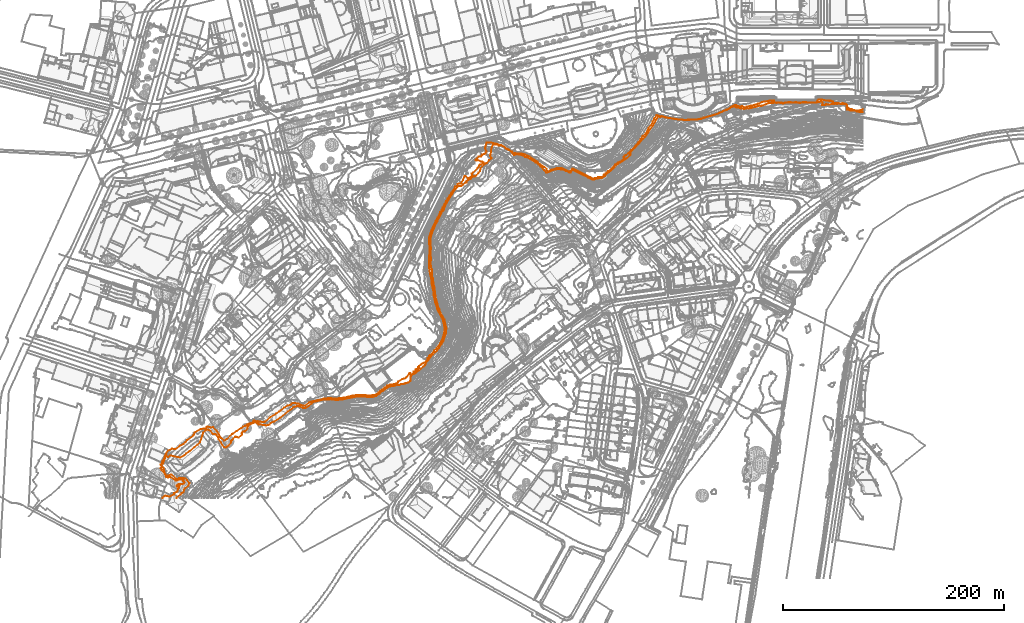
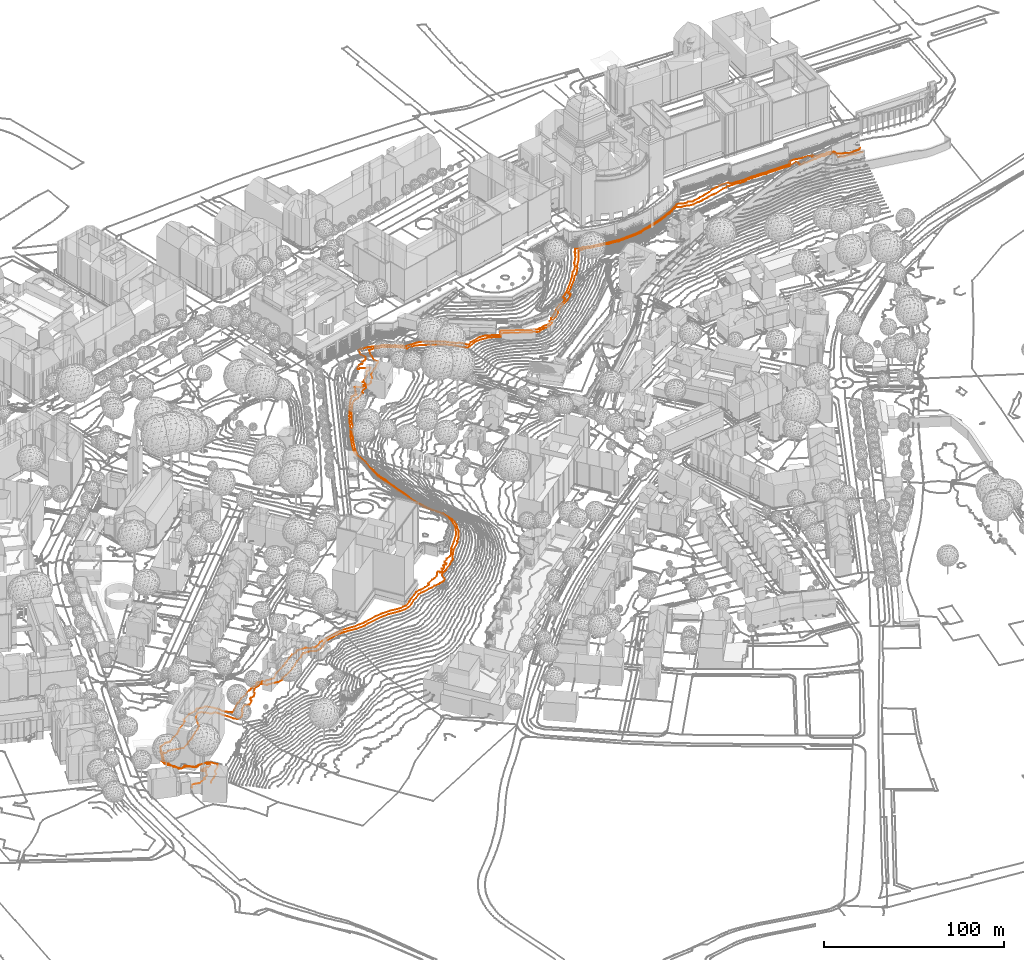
# Not in any storey, part 154 of 477: 2 geographic elements.
"""IFC4 model written with IfcOpenShell, lengths in metres."""

from ifc_helpers import new_model, entity, si_unit, frame, origin_with_axes, place, context, subcontext, project, spatial, element, save


model = new_model("IFC4")

# Units and contexts
model_context = context("Model", 3, precision=1e-05, world=origin_with_axes())
body_context = subcontext(model_context, "Body", "Model", "MODEL_VIEW")
ifc_project = project(units=[si_unit("AREAUNIT", "SQUARE_METRE"), si_unit("LENGTHUNIT", "METRE")], contexts=[model_context])

# Sites
site_1_placement = place(None, origin_with_axes())
site_1 = spatial("IfcSite", under=ifc_project, at=site_1_placement, Name="Topoexport Site")
site_2_placement = place(site_1_placement, origin_with_axes())
site_2 = spatial("IfcSite", under=site_1, at=site_2_placement, Name="TPX_CONTOUR_LINES")

# Geographic elements
geographic_element_1_placement = place(site_2_placement, frame((53.9243443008, 29.1707160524, 528.0), z_axis=(0.0, 0.0, 1.0), x_axis=(1.0, 0.0, 0.0)))
element("IfcGeographicElement", 1, at=geographic_element_1_placement, inside=site_2, Name="Contour Line 528.0 m", PredefinedType="NOTDEFINED", context=body_context, shape_type="GeometricCurveSet", body=[
    entity("IfcGeometricCurveSet", [entity("IfcIndexedPolyCurve", entity("IfcCartesianPointList3D", [[634.2533877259, 318.3275813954, 0.0], [632.7533877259, 318.6875302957, 0.0], [628.7533877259, 318.7833704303, 0.0], [626.7533877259, 319.6780520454, 0.0], [622.7533877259, 319.7864254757, 0.0], [620.7533877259, 320.6822437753, 0.0], [619.7533877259, 320.7493584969, 0.0], [619.5017505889, 321.0, 0.0], [619.3206944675, 325.0, 0.0], [618.7533877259, 325.5575704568, 0.0], [615.7533877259, 325.9832924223, 0.0], [613.7533877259, 325.6624658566, 0.0], [611.7533877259, 326.2392512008, 0.0], [610.7533877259, 325.8120008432, 0.0], [609.7533877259, 326.1629067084, 0.0], [607.7533877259, 325.6360123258, 0.0], [606.7533877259, 325.7663551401, 0.0], [601.7533877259, 325.2248138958, 0.0], [600.7533877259, 325.6001272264, 0.0], [599.7533877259, 324.9460109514, 0.0], [597.1469386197, 325.0, 0.0], [597.5899216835, 327.0, 0.0], [596.7533877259, 328.1684241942, 0.0], [591.7533877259, 327.0823497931, 0.0], [578.7533877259, 327.0987999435, 0.0], [576.7533877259, 326.6823048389, 0.0], [575.7533877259, 327.0641047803, 0.0], [572.7533877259, 327.2063637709, 0.0], [564.7533877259, 327.1543279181, 0.0], [563.7623349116, 327.0, 0.0], [562.7533877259, 326.448357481, 0.0], [561.7533877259, 326.4343716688, 0.0], [559.7533877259, 326.5102784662, 0.0], [557.7533877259, 327.0712284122, 0.0], [555.7533877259, 326.7871612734, 0.0], [553.7533877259, 327.1238699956, 0.0], [552.7533877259, 326.8738637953, 0.0], [551.7533877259, 327.0086323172, 0.0], [550.7533877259, 326.5442009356, 0.0], [548.7533877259, 326.4970273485, 0.0], [542.7533877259, 324.3087642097, 0.0], [541.7533877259, 324.0844859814, 0.0], [540.7533877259, 324.2665307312, 0.0], [537.7533877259, 323.6869343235, 0.0], [536.7533877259, 323.1665404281, 0.0], [533.7533877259, 322.6711744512, 0.0], [532.7533877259, 321.923361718, 0.0], [531.7533877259, 322.1948013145, 0.0], [530.7533877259, 321.79420745, 0.0], [529.7533877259, 322.0634176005, 0.0], [526.7533877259, 321.4310220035, 0.0], [523.7533877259, 321.7720772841, 0.0], [522.7533877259, 322.2461229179, 0.0], [519.7533877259, 322.6639315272, 0.0], [516.7533877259, 323.879054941, 0.0], [515.7533877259, 323.1270044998, 0.0], [514.7533877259, 323.0593332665, 0.0], [512.7533877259, 321.4416476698, 0.0], [511.386918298, 321.0, 0.0], [510.7533877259, 320.4270142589, 0.0], [508.883221, 320.0, 0.0], [507.7533877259, 319.2233969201, 0.0], [504.7533877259, 318.0903262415, 0.0], [503.7533877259, 317.4272977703, 0.0], [497.7533877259, 315.3818701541, 0.0], [489.7533877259, 313.310846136, 0.0], [487.7533877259, 312.3348697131, 0.0], [482.7533877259, 311.6746949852, 0.0], [474.7533877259, 311.4417765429, 0.0], [472.7533877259, 311.0941094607, 0.0], [470.7533877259, 311.5978547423, 0.0], [466.7533877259, 311.7810933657, 0.0], [465.7533877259, 312.1097318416, 0.0], [461.7533877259, 312.4745305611, 0.0], [459.7533877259, 313.0628267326, 0.0], [455.7533877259, 313.4827356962, 0.0], [454.7533877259, 314.111926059, 0.0], [451.7533877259, 314.5648022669, 0.0], [450.7533877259, 314.2096413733, 0.0], [449.7533877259, 314.9244332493, 0.0], [448.7533877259, 314.3285525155, 0.0], [443.855997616, 306.0, 0.0], [440.7533877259, 301.9664132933, 0.0], [439.8296132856, 300.0, 0.0], [436.7533877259, 295.7154784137, 0.0], [434.7533877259, 294.1525553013, 0.0], [432.3134022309, 291.0, 0.0], [427.6356595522, 286.0, 0.0], [423.7533877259, 282.1765133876, 0.0], [423.2716561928, 282.0, 0.0], [423.1146262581, 281.0, 0.0], [423.7533877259, 280.583551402, 0.0], [423.8929870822, 280.0, 0.0], [423.1115282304, 279.0, 0.0], [419.5026294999, 276.0, 0.0], [414.5140592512, 273.0, 0.0], [410.4731029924, 270.0, 0.0], [409.3425580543, 269.0, 0.0], [408.7533877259, 267.9128508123, 0.0], [405.5589854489, 265.0, 0.0], [402.7533877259, 263.348630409, 0.0], [400.7533877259, 260.8067830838, 0.0], [397.7533877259, 258.8620977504, 0.0], [394.7533877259, 258.7775839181, 0.0], [393.7533877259, 258.3257069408, 0.0], [391.7533877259, 258.108586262, 0.0], [390.7533877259, 257.3333858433, 0.0], [389.7533877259, 257.4431185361, 0.0], [385.7533877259, 259.1370725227, 0.0], [371.7533877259, 266.2484783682, 0.0], [370.7533877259, 265.6421927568, 0.0], [369.7533877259, 264.0105540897, 0.0], [368.7533877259, 263.8210065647, 0.0], [365.7533877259, 265.3950797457, 0.0], [362.7533877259, 266.4250397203, 0.0], [358.7533877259, 266.9692121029, 0.0], [355.7533877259, 266.6581347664, 0.0], [353.2885187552, 266.0, 0.0], [349.7533877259, 264.1761099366, 0.0], [347.7533877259, 263.9022290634, 0.0], [345.5719203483, 266.0, 0.0], [344.205848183, 268.0, 0.0], [342.7533877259, 269.486530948, 0.0], [340.6174240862, 271.0, 0.0], [339.7533877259, 272.3363104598, 0.0], [337.898929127, 273.0, 0.0], [330.7533877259, 277.3069653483, 0.0], [328.456895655, 278.0, 0.0], [326.7533877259, 279.0061209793, 0.0], [323.7533877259, 280.1210745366, 0.0], [320.7533877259, 280.397091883, 0.0], [318.7533877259, 279.8544566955, 0.0], [317.434959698, 281.0, 0.0], [316.7533877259, 282.2884915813, 0.0], [315.7533877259, 282.7565951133, 0.0], [313.7533877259, 284.3594781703, 0.0], [311.7533877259, 285.2798538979, 0.0], [310.7533877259, 286.2895634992, 0.0], [306.7533877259, 288.3150787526, 0.0], [304.7533877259, 288.3273888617, 0.0], [302.7533877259, 289.2366140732, 0.0], [299.5328848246, 289.0, 0.0], [298.2635317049, 286.0, 0.0], [297.8079057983, 284.0, 0.0], [297.886878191, 283.0, 0.0], [297.179115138, 279.0, 0.0], [298.2547091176, 277.0, 0.0], [297.7533877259, 276.3339510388, 0.0], [296.1354228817, 275.0, 0.0], [293.7533877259, 272.2430646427, 0.0], [292.7533877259, 271.9050022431, 0.0], [291.6068972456, 271.0, 0.0], [288.5480625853, 268.0, 0.0], [287.7533877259, 265.1689460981, 0.0], [286.5530906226, 264.0, 0.0], [284.3807707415, 261.0, 0.0], [282.7533877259, 260.455618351, 0.0], [281.7533877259, 260.5186170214, 0.0], [280.7533877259, 259.9700108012, 0.0], [279.7533877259, 258.3297430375, 0.0], [276.9379374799, 257.0, 0.0], [275.7877789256, 256.0, 0.0], [275.7533877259, 254.911026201, 0.0], [274.7533877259, 254.8642424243, 0.0], [272.7533877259, 253.0549084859, 0.0], [270.7533877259, 251.7225766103, 0.0], [268.7533877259, 251.6187756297, 0.0], [267.7533877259, 251.0888463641, 0.0], [265.7533877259, 249.0376394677, 0.0], [263.7533877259, 246.3342716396, 0.0], [256.9305248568, 235.0, 0.0], [255.4986707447, 232.0, 0.0], [255.1762960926, 230.0, 0.0], [253.3404372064, 228.0, 0.0], [250.8518933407, 223.0, 0.0], [249.527770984, 221.0, 0.0], [249.3882069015, 220.0, 0.0], [248.2532647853, 218.0, 0.0], [245.2184543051, 211.0, 0.0], [243.4811302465, 206.0, 0.0], [243.194458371, 205.0, 0.0], [243.1004901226, 202.0, 0.0], [243.5107330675, 196.0, 0.0], [243.2194390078, 189.0, 0.0], [243.4798212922, 187.0, 0.0], [243.3639808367, 181.0, 0.0], [243.7936959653, 178.0, 0.0], [244.3921327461, 176.0, 0.0], [244.7420598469, 170.0, 0.0], [245.4528190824, 168.0, 0.0], [245.9261237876, 163.0, 0.0], [246.7503344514, 160.0, 0.0], [247.867568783, 151.0, 0.0], [249.4689931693, 145.0, 0.0], [251.1534069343, 140.0, 0.0], [252.4522298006, 137.0, 0.0], [255.7987414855, 131.0, 0.0], [257.4679031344, 123.0, 0.0], [257.3708548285, 121.0, 0.0], [256.9325380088, 118.0, 0.0], [254.8525220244, 112.0, 0.0], [253.1090215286, 109.0, 0.0], [250.7533877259, 105.3037547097, 0.0], [249.3340994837, 104.0, 0.0], [249.1012427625, 103.0, 0.0], [243.5928120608, 98.0, 0.0], [238.7533877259, 91.0989281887, 0.0], [238.4181237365, 90.0, 0.0], [237.7533877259, 89.2332707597, 0.0], [236.7533877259, 88.7275831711, 0.0], [234.7533877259, 86.7180674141, 0.0], [229.7533877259, 82.7923566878, 0.0], [228.7533877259, 82.1247361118, 0.0], [227.7533877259, 81.9370306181, 0.0], [225.7477743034, 80.0, 0.0], [225.1903643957, 79.0, 0.0], [225.0990191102, 76.0, 0.0], [224.7533877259, 75.3245553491, 0.0], [223.0840279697, 74.0, 0.0], [220.7533877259, 73.5683195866, 0.0], [219.7533877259, 72.9309789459, 0.0], [216.7533877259, 72.7677922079, 0.0], [214.7533877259, 71.8538959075, 0.0], [212.7533877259, 71.815318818, 0.0], [208.7533877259, 70.7341423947, 0.0], [206.7533877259, 70.6284710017, 0.0], [204.8914146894, 70.0, 0.0], [201.7533877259, 67.5527975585, 0.0], [199.7533877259, 66.5393132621, 0.0], [196.9162500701, 64.0, 0.0], [193.7533877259, 61.8559597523, 0.0], [190.7533877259, 61.1726955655, 0.0], [187.7533877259, 60.916795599, 0.0], [180.7533877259, 61.6044109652, 0.0], [176.7533877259, 61.4490815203, 0.0], [166.7533877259, 59.5853217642, 0.0], [163.7533877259, 58.7187706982, 0.0], [157.7533877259, 58.2943895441, 0.0], [152.7533877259, 58.9284950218, 0.0], [150.7533877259, 58.7391273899, 0.0], [149.7533877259, 59.0978872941, 0.0], [148.7533877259, 58.8015282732, 0.0], [146.7533877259, 58.8878807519, 0.0], [136.7533877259, 56.3302840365, 0.0], [135.7533877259, 55.1625245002, 0.0], [132.7533877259, 52.7033783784, 0.0], [130.7533877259, 51.4046704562, 0.0], [129.7533877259, 51.1376357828, 0.0], [127.7533877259, 50.9199897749, 0.0], [124.7533877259, 52.4064061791, 0.0], [122.7533877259, 52.7844319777, 0.0], [121.7533877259, 52.2924528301, 0.0], [120.7533877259, 52.3857830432, 0.0], [119.7533877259, 52.0051724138, 0.0], [118.7533877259, 51.4688233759, 0.0], [117.7533877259, 50.0594568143, 0.0], [113.7533877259, 47.746015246, 0.0], [107.7533877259, 42.5170593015, 0.0], [101.7533877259, 38.962085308, 0.0], [98.7533877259, 37.5743670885, 0.0], [97.5988158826, 36.0, 0.0], [94.7533877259, 35.3559152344, 0.0], [88.7533877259, 36.1549833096, 0.0], [87.7533877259, 35.9405120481, 0.0], [85.8588157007, 38.0, 0.0], [84.7533877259, 38.4123440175, 0.0], [82.7533877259, 37.3805392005, 0.0], [81.3020535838, 37.0, 0.0], [79.5807258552, 36.0, 0.0], [77.8627257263, 34.0, 0.0], [77.7533877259, 32.4738415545, 0.0], [75.7533877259, 30.0483217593, 0.0], [73.7533877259, 29.6500593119, 0.0], [72.8899423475, 29.0, 0.0], [72.3880816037, 28.0, 0.0], [72.6670989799, 27.0, 0.0], [69.7533877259, 24.3492647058, 0.0], [66.7533877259, 25.1640162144, 0.0], [66.4963007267, 25.0, 0.0], [63.7533877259, 22.2002895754, 0.0], [62.926622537, 21.0, 0.0], [62.7533877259, 19.9435517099, 0.0], [60.7533877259, 17.2900688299, 0.0], [59.367117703, 16.0, 0.0], [57.7533877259, 15.2759914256, 0.0], [56.7533877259, 15.5807890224, 0.0], [55.2824215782, 17.0, 0.0], [53.8678012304, 20.0, 0.0], [51.7721082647, 23.0, 0.0], [50.9465417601, 25.0, 0.0], [49.7533877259, 26.6595691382, 0.0], [48.7533877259, 27.3522633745, 0.0], [46.7533877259, 27.3401874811, 0.0], [44.3251358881, 30.0, 0.0], [42.7533877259, 31.2960707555, 0.0], [41.7533877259, 31.6119579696, 0.0], [40.7533877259, 31.4676014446, 0.0], [39.7533877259, 30.8795218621, 0.0], [37.7533877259, 28.7472150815, 0.0], [34.7533877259, 20.1534795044, 0.0], [32.7533877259, 18.0732054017, 0.0], [29.7533877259, 15.9288413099, 0.0], [25.3712659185, 12.0, 0.0], [22.2667092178, 10.0, 0.0], [20.7533877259, 8.4741532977, 0.0], [16.7533877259, 6.2753623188, 0.0], [8.7533877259, 7.9579158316, 0.0], [7.7533877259, 7.963072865, 0.0], [5.7533877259, 6.7813923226, 0.0], [4.7533877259, 7.8615819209, 0.0], [3.7533877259, 7.0016976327, 0.0], [1.260388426, 1.0, 0.0], [0.0, 0.0, 0.0], [0.1844730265, -1.0, 0.0], [1.9187948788, -3.0, 0.0], [1.7850704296, -4.0, 0.0], [2.4293653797, -5.0, 0.0], [2.2780493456, -6.0, 0.0], [2.6441205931, -7.0, 0.0], [4.7533877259, -9.7997992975, 0.0], [5.7533877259, -10.3796860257, 0.0], [8.7533877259, -8.9386662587, 0.0], [12.7533877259, -12.6217598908, 0.0], [13.7533877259, -13.072687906, 0.0], [14.7533877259, -13.1724811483, 0.0], [15.7533877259, -12.1373035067, 0.0], [16.7533877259, -12.4551695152, 0.0], [19.7533877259, -12.3557722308, 0.0], [21.7533877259, -12.924576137, 0.0], [23.2236193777, -14.0, 0.0], [25.3401673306, -17.0, 0.0], [24.2717164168, -19.0, 0.0], [20.7533877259, -21.8404761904, 0.0], [19.7533877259, -25.0060880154, 0.0], [18.0636614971, -26.0, 0.0], [17.2135058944, -27.0, 0.0], [13.7533877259, -29.6589403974, 0.0], [13.4748322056, -30.5, 0.0]]))]),
])
geographic_element_2_placement = place(site_2_placement, frame((52.9444660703, 29.1707160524, 529.0), z_axis=(0.0, 0.0, 1.0), x_axis=(1.0, 0.0, 0.0)))
element("IfcGeographicElement", 2, at=geographic_element_2_placement, inside=site_2, Name="Contour Line 529.0 m", PredefinedType="NOTDEFINED", context=body_context, shape_type="GeometricCurveSet", body=[
    entity("IfcGeometricCurveSet", [entity("IfcIndexedPolyCurve", entity("IfcCartesianPointList3D", [[635.2332659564, 321.1997180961, 0.0], [634.4041022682, 321.0, 0.0], [633.7332659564, 319.8383838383, 0.0], [632.7332659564, 320.1825496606, 0.0], [631.7332659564, 319.8324533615, 0.0], [630.7332659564, 320.0948081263, 0.0], [629.7332659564, 319.8469827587, 0.0], [626.7332659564, 320.1811320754, 0.0], [624.7332659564, 321.1000000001, 0.0], [623.7332659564, 321.0326876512, 0.0], [620.7332659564, 322.9132557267, 0.0], [620.6245784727, 325.0, 0.0], [619.7332659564, 325.8760155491, 0.0], [616.7332659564, 326.620920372, 0.0], [614.7332659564, 325.9711029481, 0.0], [612.7332659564, 326.7132978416, 0.0], [611.7332659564, 326.4971741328, 0.0], [609.7332659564, 326.8071841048, 0.0], [608.7332659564, 326.4683123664, 0.0], [607.3313894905, 327.0, 0.0], [608.0599283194, 328.0, 0.0], [606.7332659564, 328.3665297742, 0.0], [605.7600798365, 329.0, 0.0], [604.7332659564, 328.660730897, 0.0], [603.7332659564, 328.7448891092, 0.0], [602.7332659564, 329.1272684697, 0.0], [601.7332659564, 328.952245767, 0.0], [597.7332659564, 329.8203005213, 0.0], [594.7332659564, 329.8375611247, 0.0], [593.7332659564, 329.0545359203, 0.0], [593.6570816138, 328.0, 0.0], [592.7332659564, 327.3131038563, 0.0], [580.7332659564, 327.3549566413, 0.0], [577.7332659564, 327.117638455, 0.0], [574.7332659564, 327.4162744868, 0.0], [570.7332659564, 327.2793724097, 0.0], [567.7332659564, 327.5036584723, 0.0], [562.7332659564, 326.822480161, 0.0], [558.7332659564, 327.3207486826, 0.0], [555.7332659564, 327.2365529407, 0.0], [554.8439756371, 328.0, 0.0], [554.7332659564, 328.7358507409, 0.0], [550.7332659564, 328.7723042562, 0.0], [548.7332659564, 328.555622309, 0.0], [546.7332659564, 327.9409472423, 0.0], [545.7332659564, 328.0403860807, 0.0], [543.7332659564, 327.6385009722, 0.0], [540.3905461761, 326.0, 0.0], [537.7332659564, 325.3784240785, 0.0], [536.7332659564, 324.8276193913, 0.0], [533.7332659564, 324.429440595, 0.0], [532.7332659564, 323.9635407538, 0.0], [529.7332659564, 323.4341267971, 0.0], [528.7332659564, 322.7729180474, 0.0], [527.7332659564, 322.6681037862, 0.0], [525.7332659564, 323.7876291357, 0.0], [524.7332659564, 323.4730679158, 0.0], [522.7332659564, 323.6871850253, 0.0], [521.5655067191, 324.0, 0.0], [520.1228231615, 325.0, 0.0], [519.3505654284, 325.0, 0.0], [518.7332659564, 324.8380927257, 0.0], [516.7332659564, 323.3743997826, 0.0], [515.7332659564, 323.1415905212, 0.0], [514.7332659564, 322.2682482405, 0.0], [511.7332659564, 320.6285816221, 0.0], [509.7332659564, 320.0616597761, 0.0], [508.7332659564, 319.2958117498, 0.0], [505.7332659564, 318.1697842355, 0.0], [504.7332659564, 317.5177456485, 0.0], [498.7332659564, 315.4644682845, 0.0], [490.7332659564, 313.3774539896, 0.0], [488.7332659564, 312.4549271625, 0.0], [483.7332659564, 311.7783210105, 0.0], [475.7332659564, 311.5156818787, 0.0], [473.7332659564, 311.2104433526, 0.0], [471.7332659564, 311.680284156, 0.0], [467.7332659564, 311.9006296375, 0.0], [456.7332659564, 313.6529272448, 0.0], [455.7332659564, 314.1881753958, 0.0], [453.7332659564, 314.4195285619, 0.0], [452.7332659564, 315.012743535, 0.0], [451.7332659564, 314.4553854, 0.0], [450.7332659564, 315.123654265, 0.0], [449.7332659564, 315.183583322, 0.0], [448.6656406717, 316.0, 0.0], [446.594530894, 313.0, 0.0], [446.3823485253, 312.0, 0.0], [444.9524942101, 310.0, 0.0], [444.7616186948, 309.0, 0.0], [441.0780098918, 304.0, 0.0], [439.7332659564, 300.9635619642, 0.0], [438.449444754, 299.0, 0.0], [436.7332659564, 297.2480423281, 0.0], [435.7332659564, 296.7272254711, 0.0], [434.006032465, 294.0, 0.0], [431.580598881, 291.0, 0.0], [425.2868627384, 284.0, 0.0], [420.7332659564, 279.6574664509, 0.0], [419.44348385, 279.0, 0.0], [418.6441134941, 278.0, 0.0], [418.7332659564, 277.4007391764, 0.0], [419.297578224, 277.0, 0.0], [419.1342488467, 276.0, 0.0], [417.9271042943, 275.0, 0.0], [413.6614608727, 273.0, 0.0], [410.7297716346, 271.0, 0.0], [404.5986015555, 265.0, 0.0], [403.1027256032, 264.0, 0.0], [402.4100574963, 263.0, 0.0], [401.0925854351, 262.0, 0.0], [400.6584981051, 261.0, 0.0], [398.7332659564, 259.6727702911, 0.0], [395.7332659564, 259.6411897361, 0.0], [394.7332659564, 258.8521850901, 0.0], [392.7332659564, 258.7628993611, 0.0], [391.7332659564, 258.3736831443, 0.0], [390.7332659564, 258.4260332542, 0.0], [387.3033054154, 260.0, 0.0], [372.7332659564, 267.5960684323, 0.0], [371.7332659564, 266.7229551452, 0.0], [370.7332659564, 265.0912988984, 0.0], [369.7332659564, 264.4232500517, 0.0], [362.7332659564, 267.9233042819, 0.0], [360.7332659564, 268.1422507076, 0.0], [359.7332659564, 267.8046127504, 0.0], [358.7332659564, 268.0779019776, 0.0], [354.7332659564, 266.6604706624, 0.0], [352.7332659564, 266.2628979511, 0.0], [350.7332659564, 264.8688794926, 0.0], [349.7332659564, 265.3734808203, 0.0], [349.2110261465, 266.0, 0.0], [348.9390423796, 267.0, 0.0], [346.7332659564, 269.0232198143, 0.0], [345.7332659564, 269.3242165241, 0.0], [342.7332659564, 271.5775798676, 0.0], [340.7332659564, 273.6410904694, 0.0], [335.7332659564, 276.6292792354, 0.0], [333.7332659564, 278.1678518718, 0.0], [331.3978501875, 279.0, 0.0], [329.7332659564, 280.0604829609, 0.0], [327.7332659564, 280.7241286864, 0.0], [325.7332659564, 281.013781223, 0.0], [322.7332659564, 280.9031431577, 0.0], [320.7332659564, 281.4162458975, 0.0], [319.7332659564, 280.8036140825, 0.0], [318.7332659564, 280.897233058, 0.0], [318.3820233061, 282.0, 0.0], [317.7332659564, 282.6439854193, 0.0], [316.7704681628, 283.0, 0.0], [314.7332659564, 284.6873024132, 0.0], [312.7332659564, 285.6538751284, 0.0], [311.7332659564, 286.657445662, 0.0], [307.7332659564, 288.6869184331, 0.0], [305.7332659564, 288.7093269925, 0.0], [304.7332659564, 289.4388212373, 0.0], [302.7332659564, 289.9579558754, 0.0], [301.7332659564, 289.9189530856, 0.0], [300.7332659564, 290.6212792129, 0.0], [296.7332659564, 291.1324691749, 0.0], [294.7526478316, 291.0, 0.0], [293.4796694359, 286.0, 0.0], [294.8058154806, 283.0, 0.0], [294.022267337, 282.0, 0.0], [293.7332659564, 281.0951008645, 0.0], [292.7332659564, 280.5031277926, 0.0], [290.7332659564, 280.1780962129, 0.0], [290.4160311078, 279.0, 0.0], [289.7332659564, 278.1021170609, 0.0], [288.7332659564, 278.4450261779, 0.0], [287.7332659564, 278.2455516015, 0.0], [285.7332659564, 276.41089838, 0.0], [284.8594795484, 275.0, 0.0], [285.7332659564, 274.644736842, 0.0], [286.7332659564, 275.3376205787, 0.0], [289.7332659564, 273.669201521, 0.0], [290.7332659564, 273.7773654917, 0.0], [292.121989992, 273.0, 0.0], [291.7332659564, 272.9247126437, 0.0], [291.1408506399, 272.0, 0.0], [289.7332659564, 270.8750336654, 0.0], [288.7332659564, 270.8594009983, 0.0], [287.895471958, 270.0, 0.0], [286.7332659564, 268.0387168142, 0.0], [282.7332659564, 263.7917888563, 0.0], [281.0881820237, 263.0, 0.0], [281.7332659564, 262.3801843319, 0.0], [281.7620574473, 261.0, 0.0], [280.1419839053, 260.0, 0.0], [279.7332659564, 258.9453467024, 0.0], [277.7332659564, 258.8127193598, 0.0], [275.7332659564, 260.7156090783, 0.0], [274.7332659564, 260.7035860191, 0.0], [273.3336826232, 257.0, 0.0], [272.0276811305, 255.0, 0.0], [272.1828181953, 254.0, 0.0], [271.7332659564, 253.7383296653, 0.0], [269.7332659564, 253.9552429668, 0.0], [268.7332659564, 253.5298608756, 0.0], [266.5347386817, 251.0, 0.0], [263.0731260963, 246.0, 0.0], [262.7328864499, 245.0, 0.0], [261.1631480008, 243.0, 0.0], [259.7332659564, 240.1878248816, 0.0], [258.1275867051, 238.0, 0.0], [257.7332659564, 236.8345574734, 0.0], [256.7332659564, 235.4387017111, 0.0], [255.0041518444, 232.0, 0.0], [254.3337448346, 230.0, 0.0], [252.9154305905, 228.0, 0.0], [250.5063511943, 223.0, 0.0], [248.7029078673, 220.0, 0.0], [244.9590142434, 212.0, 0.0], [243.5787060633, 208.0, 0.0], [242.8153736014, 205.0, 0.0], [242.6914952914, 202.0, 0.0], [243.5020554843, 195.0, 0.0], [243.0087467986, 189.0, 0.0], [242.781234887, 179.0, 0.0], [243.5976200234, 173.0, 0.0], [244.8158201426, 168.0, 0.0], [245.4452082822, 162.0, 0.0], [246.7367026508, 157.0, 0.0], [247.1195731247, 153.0, 0.0], [248.5549956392, 146.0, 0.0], [249.7329749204, 143.0, 0.0], [250.0438133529, 141.0, 0.0], [250.8458292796, 139.0, 0.0], [254.3442617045, 133.0, 0.0], [255.4798774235, 130.0, 0.0], [256.871727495, 124.0, 0.0], [256.7680550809, 121.0, 0.0], [255.4455496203, 115.0, 0.0], [252.7332659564, 109.2681998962, 0.0], [247.5362898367, 103.0, 0.0], [243.7332659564, 98.960909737, 0.0], [243.0417058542, 98.0, 0.0], [242.7939371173, 97.0, 0.0], [241.6459386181, 96.0, 0.0], [240.7079962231, 94.0, 0.0], [239.8916573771, 93.0, 0.0], [238.7332659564, 92.1072062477, 0.0], [235.8652884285, 91.0, 0.0], [235.2457419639, 90.0, 0.0], [233.6338326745, 89.0, 0.0], [232.9435506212, 88.0, 0.0], [233.5832659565, 87.0, 0.0], [232.7675813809, 86.0, 0.0], [231.7332659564, 86.3614035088, 0.0], [230.7332659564, 86.0094458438, 0.0], [230.9154441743, 85.0, 0.0], [230.2536408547, 84.0, 0.0], [229.7332659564, 83.5946031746, 0.0], [228.6208973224, 84.0, 0.0], [229.0885155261, 83.0, 0.0], [228.7332659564, 82.9376208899, 0.0], [226.7332659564, 80.9575680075, 0.0], [225.9230550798, 81.0, 0.0], [226.2803784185, 82.0, 0.0], [225.7332659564, 82.5577072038, 0.0], [224.7783587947, 82.0, 0.0], [222.6620538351, 79.0, 0.0], [220.7332659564, 77.8734602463, 0.0], [218.7332659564, 77.2863140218, 0.0], [214.7332659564, 75.0839694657, 0.0], [214.9488513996, 74.0, 0.0], [211.7332659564, 72.809723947, 0.0], [208.7332659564, 72.0434535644, 0.0], [207.7332659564, 72.1798570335, 0.0], [204.7332659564, 71.1619356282, 0.0], [202.7332659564, 69.4053194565, 0.0], [198.982202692, 67.0, 0.0], [196.9753189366, 65.0, 0.0], [193.7332659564, 62.7318081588, 0.0], [191.7332659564, 62.7506269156, 0.0], [189.7332659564, 62.0983216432, 0.0], [183.7332659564, 62.8286588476, 0.0], [177.7332659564, 62.8435257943, 0.0], [173.7332659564, 62.2532793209, 0.0], [166.7332659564, 60.5588599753, 0.0], [165.7332659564, 60.5654958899, 0.0], [164.7332659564, 59.9182237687, 0.0], [161.7332659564, 60.031935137, 0.0], [158.7332659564, 59.5610192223, 0.0], [151.7332659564, 60.0737119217, 0.0], [149.7332659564, 59.5267864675, 0.0], [147.7332659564, 59.5335116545, 0.0], [145.7332659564, 58.8509951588, 0.0], [136.8176618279, 57.0, 0.0], [135.7332659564, 56.332157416, 0.0], [134.2994809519, 56.0, 0.0], [130.7332659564, 53.3886737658, 0.0], [129.7332659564, 53.1225559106, 0.0], [128.7332659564, 53.1243999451, 0.0], [126.7332659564, 53.8223192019, 0.0], [125.7332659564, 54.2687435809, 0.0], [124.7332659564, 55.1672578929, 0.0], [119.7332659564, 55.4675995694, 0.0], [118.7332659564, 55.0278393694, 0.0], [117.7332659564, 53.8540023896, 0.0], [114.7332659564, 53.2226640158, 0.0], [111.7332659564, 51.3162041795, 0.0], [108.7332659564, 48.7414309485, 0.0], [107.2820063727, 48.0, 0.0], [104.7332659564, 45.9247067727, 0.0], [98.7332659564, 42.6007183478, 0.0], [94.7332659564, 38.6014084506, 0.0], [92.7332659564, 38.3632028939, 0.0], [89.7332659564, 38.7590591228, 0.0], [88.7332659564, 38.1251502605, 0.0], [87.7332659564, 39.0832480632, 0.0], [86.7332659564, 38.6854864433, 0.0], [85.7332659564, 39.4325928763, 0.0], [84.7332659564, 39.5361763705, 0.0], [83.7425456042, 39.0, 0.0], [83.7053735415, 38.0, 0.0], [80.7332659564, 37.2125531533, 0.0], [79.7332659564, 36.4622406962, 0.0], [78.3689055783, 36.0, 0.0], [77.7332659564, 35.1855867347, 0.0], [76.7332659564, 35.0684718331, 0.0], [74.7332659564, 34.259305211, 0.0], [73.428947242, 33.0, 0.0], [68.7332659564, 30.4182990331, 0.0], [65.7548395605, 28.0, 0.0], [64.7332659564, 27.5120464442, 0.0], [59.7332659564, 22.7684327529, 0.0], [57.7332659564, 21.431616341, 0.0], [54.7332659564, 23.9899074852, 0.0], [53.9165879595, 25.0, 0.0], [52.7607888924, 28.0, 0.0], [50.7332659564, 30.7723227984, 0.0], [47.7332659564, 33.9044481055, 0.0], [45.7332659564, 33.4393179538, 0.0], [42.7332659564, 34.2761825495, 0.0], [41.7332659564, 33.8738930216, 0.0], [40.7332659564, 32.6805022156, 0.0], [36.172249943, 32.0, 0.0], [30.9889181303, 29.0, 0.0], [30.3272084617, 27.0, 0.0], [29.7332659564, 26.2129251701, 0.0], [24.0268970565, 22.0, 0.0], [22.7332659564, 20.3716075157, 0.0], [20.7332659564, 18.6759700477, 0.0], [17.7332659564, 17.0451263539, 0.0], [13.7332659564, 14.0725075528, 0.0], [12.7332659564, 13.885771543, 0.0], [10.7332659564, 14.3104967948, 0.0], [6.7332659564, 12.4047452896, 0.0], [5.1026115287, 10.0, 0.0], [5.0006637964, 9.0, 0.0], [4.1963215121, 8.0, 0.0], [2.7332659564, 3.8395585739, 0.0], [2.0148640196, 3.0, 0.0], [1.7332659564, 1.6336241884, 0.0], [0.0, 0.0, 0.0], [0.4204384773, -1.0, 0.0], [1.4649447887, -2.0, 0.0], [0.2804950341, -3.0, 0.0], [1.2276616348, -5.0, 0.0], [3.7332659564, -7.8366310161, 0.0], [5.1939644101, -11.0, 0.0], [5.7332659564, -11.5126940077, 0.0], [6.7332659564, -11.7864077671, 0.0], [7.7332659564, -11.3616957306, 0.0], [8.7332659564, -11.3632241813, 0.0], [9.7332659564, -11.6590909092, 0.0], [13.7332659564, -14.6316029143, 0.0], [14.7332659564, -14.7031700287, 0.0], [15.438808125, -14.0, 0.0], [16.7332659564, -13.5156021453, 0.0], [20.7332659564, -13.9616522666, 0.0], [20.6795276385, -15.0, 0.0], [21.6546218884, -16.0, 0.0], [21.5821465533, -17.0, 0.0], [19.7332659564, -17.8925811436, 0.0], [18.7332659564, -17.6411764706, 0.0], [17.7332659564, -18.078384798, 0.0], [16.7332659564, -17.7825512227, 0.0], [16.0021548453, -18.0, 0.0], [17.2878009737, -19.0, 0.0], [16.7332659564, -19.5426966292, 0.0], [15.7332659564, -19.7087719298, 0.0], [14.7133022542, -19.0, 0.0], [15.1466935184, -20.0, 0.0], [16.7471121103, -21.0, 0.0], [15.9391196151, -22.0, 0.0], [15.3823354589, -24.0, 0.0], [14.7332659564, -24.7341065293, 0.0], [12.4956080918, -26.0, 0.0], [12.3842522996, -27.0, 0.0], [7.7332659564, -28.9247787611, 0.0], [4.7332659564, -28.2321144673, 0.0], [3.7332659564, -28.3415716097, 0.0], [2.0233590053, -30.0, 0.0], [2.0233590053, -30.5, 0.0]]))]),
])

save(model, "model.ifc")
